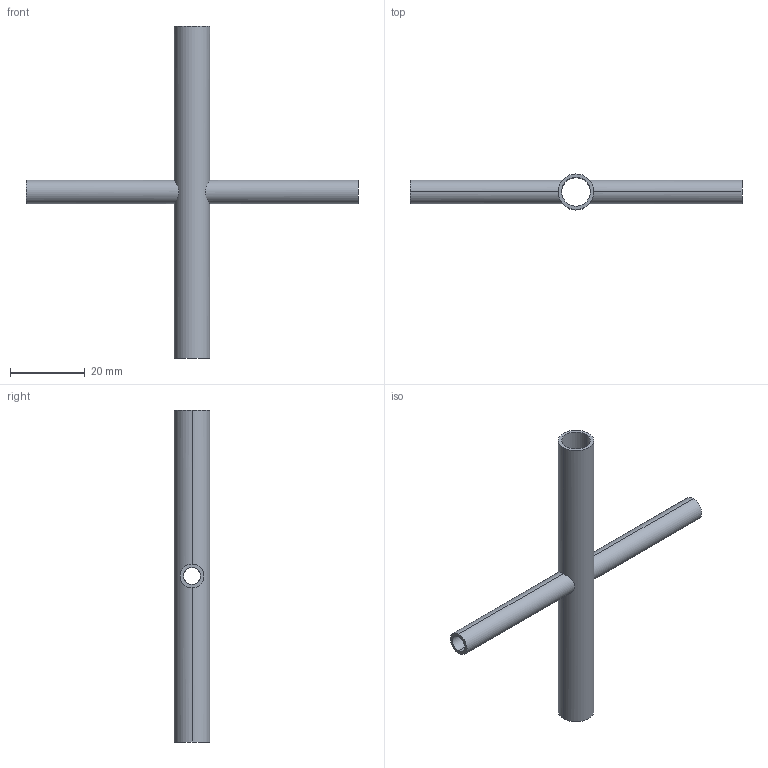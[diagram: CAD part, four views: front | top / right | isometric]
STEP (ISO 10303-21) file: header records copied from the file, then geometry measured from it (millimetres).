
FILE_DESCRIPTION (( 'STEP AP214' ), '1' );
FILE_NAME ('TE9RWWWW6L.375x.25-...STEP', '2016-05-22T04:09:26', ( 'eran' ), ( '' ), 'SwSTEP 2.0', 'SolidWorks 2016', '' );
FILE_SCHEMA (( 'AUTOMOTIVE_DESIGN' ));
Length unit declared in the file: millimetre
Products named in the file (1): TE9RWWWW6L.375x.25-..
Bounding box: 88.9 x 9.53 x 88.9 mm (x, y, z)
Volume: 3337.7 mm3; surface area: 7583.3 mm2
Topology: 1 solids, 1 shells, 16 faces, 40 edges, 24 vertices
Faces by surface type: cylinder 12, plane 4
Entity records: 746 total; most frequent: CARTESIAN_POINT 321, DIRECTION 82, ORIENTED_EDGE 80, EDGE_CURVE 40, AXIS2_PLACEMENT_3D 33, VERTEX_POINT 24, EDGE_LOOP 20, VECTOR 16
